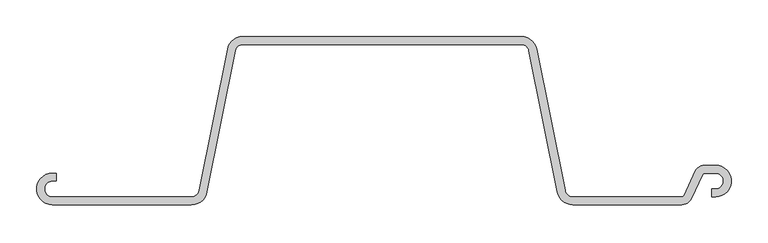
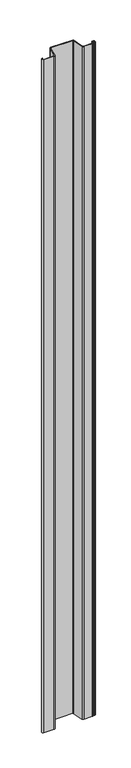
"""IFC4 building model written with IfcOpenShell, lengths in millimetres: proxy geometry, 鋼矢板10H型 : 鋼矢板10H型."""

from ifc_helpers import new_model, si_unit, point, frame, frame_2d, origin, place, context, project, spatial, polyline, circle_curve, trimmed, segment, composite_curve, outline, extrude, source, transform, mapped, element, save


def generic_models_896a7e0f(model_context):
    return source(origin(), model_context, "Body", "SweptSolid", [
        extrude(outline(composite_curve([segment(trimmed(circle_curve(frame_2d((409.1972607, -101.1142857)), 13.8857143), [point((421.7819917, -106.9826421))], [point((409.1972607, -115.0))], False, "CARTESIAN"), True, "CONTINUOUS"), segment(polyline([(409.1972607, -115.0), (260.2008232, -115.0)]), True, "CONTINUOUS"), segment(trimmed(circle_curve(frame_2d((260.2008232, -93.4)), 21.6), [point((260.2008232, -115.0))], [point((239.0202806, -97.6361085))], False, "CARTESIAN"), True, "CONTINUOUS"), segment(polyline([(239.0202806, -97.6361085), (200.3894481, 95.5180543)]), True, "CONTINUOUS"), segment(trimmed(circle_curve(frame_2d((189.7991768, 93.4)), 10.8), [point((200.3894481, 95.5180543))], [point((189.7991768, 104.2))], True, "CARTESIAN"), True, "CONTINUOUS"), segment(polyline([(189.7991768, 104.2), (-189.7991768, 104.2)]), True, "CONTINUOUS"), segment(trimmed(circle_curve(frame_2d((-189.7991768, 93.4)), 10.8), [point((-189.7991768, 104.2))], [point((-200.3894481, 95.5180543))], True, "CARTESIAN"), True, "CONTINUOUS"), segment(polyline([(-200.3894481, 95.5180543), (-239.0202806, -97.6361085)]), True, "CONTINUOUS"), segment(trimmed(circle_curve(frame_2d((-260.2008232, -93.4)), 21.6), [point((-239.0202806, -97.6361085))], [point((-260.2008232, -115.0))], False, "CARTESIAN"), True, "CONTINUOUS"), segment(polyline([(-260.2008232, -115.0), (-450.0, -115.0)]), True, "CONTINUOUS"), segment(trimmed(circle_curve(frame_2d((-450.0, -93.4)), 21.6), [point((-450.0, -115.0))], [point((-450.0, -71.8))], False, "CARTESIAN"), True, "CONTINUOUS"), segment(polyline([(-450.0, -71.8), (-445.0, -71.8), (-445.0, -82.6), (-450.0, -82.6)]), True, "CONTINUOUS"), segment(trimmed(circle_curve(frame_2d((-450.0, -93.4)), 10.8), [point((-450.0, -82.6))], [point((-450.0, -104.2))], True, "CARTESIAN"), True, "CONTINUOUS"), segment(polyline([(-450.0, -104.2), (-260.2008232, -104.2)]), True, "CONTINUOUS"), segment(trimmed(circle_curve(frame_2d((-260.2008232, -93.4)), 10.8), [point((-260.2008232, -104.2))], [point((-249.6105519, -95.5180543))], True, "CARTESIAN"), True, "CONTINUOUS"), segment(polyline([(-249.6105519, -95.5180543), (-210.9797194, 97.6361085)]), True, "CONTINUOUS"), segment(trimmed(circle_curve(frame_2d((-189.7991768, 93.4)), 21.6), [point((-210.9797194, 97.6361085))], [point((-189.7991768, 115.0))], False, "CARTESIAN"), True, "CONTINUOUS"), segment(polyline([(-189.7991768, 115.0), (189.7991768, 115.0)]), True, "CONTINUOUS"), segment(trimmed(circle_curve(frame_2d((189.7991768, 93.4)), 21.6), [point((189.7991768, 115.0))], [point((210.9797194, 97.6361085))], False, "CARTESIAN"), True, "CONTINUOUS"), segment(polyline([(210.9797194, 97.6361085), (249.6105519, -95.5180543)]), True, "CONTINUOUS"), segment(trimmed(circle_curve(frame_2d((260.2008232, -93.4)), 10.8), [point((249.6105519, -95.5180543))], [point((260.2008232, -104.2))], True, "CARTESIAN"), True, "CONTINUOUS"), segment(polyline([(260.2008232, -104.2), (409.1972607, -104.2)]), True, "CONTINUOUS"), segment(trimmed(circle_curve(frame_2d((409.1972607, -101.1142857)), 3.0857143), [point((409.1972607, -104.2))], [point((411.9938676, -102.4183649))], True, "CARTESIAN"), True, "CONTINUOUS"), segment(polyline([(411.9938676, -102.4183649), (427.569013, -69.0173579)]), True, "CONTINUOUS"), segment(trimmed(circle_curve(frame_2d((440.153744, -74.8857143)), 13.8857143), [point((427.569013, -69.0173579))], [point((440.153744, -61.0))], False, "CARTESIAN"), True, "CONTINUOUS"), segment(polyline([(440.153744, -61.0), (455.0, -61.0)]), True, "CONTINUOUS"), segment(trimmed(circle_curve(frame_2d((455.0, -82.6)), 21.6), [point((455.0, -61.0))], [point((455.0, -104.2))], False, "CARTESIAN"), True, "CONTINUOUS"), segment(polyline([(455.0, -104.2), (450.0, -104.2), (450.0, -93.4), (455.0, -93.4)]), True, "CONTINUOUS"), segment(trimmed(circle_curve(frame_2d((455.0, -82.6)), 10.8), [point((455.0, -93.4))], [point((455.0, -71.8))], True, "CARTESIAN"), True, "CONTINUOUS"), segment(polyline([(455.0, -71.8), (440.153744, -71.8)]), True, "CONTINUOUS"), segment(trimmed(circle_curve(frame_2d((440.153744, -74.8857143)), 3.0857143), [point((440.153744, -71.8))], [point((437.3571371, -73.5816351))], True, "CARTESIAN"), True, "CONTINUOUS"), segment(polyline([(437.3571371, -73.5816351), (421.7819917, -106.9826421)]), True, "CONTINUOUS")], self_intersect=False)), frame((0.0, 0.0, -12500.0), z_axis=(0.0, 0.0, 1.0), x_axis=(1.0, 0.0, 0.0)), (0.0, 0.0, 1.0), 12500.0),
    ])


if __name__ == "__main__":
    model = new_model("IFC4")
    model_context = context("Model", 3, world=origin())
    ifc_project = project(units=[si_unit("LENGTHUNIT", "METRE", prefix="MILLI")], contexts=[model_context])
    site = spatial("IfcSite", under=ifc_project)
    building = spatial("IfcBuilding", under=site)
    placement = place(None, origin())
    generic_models_shape = generic_models_896a7e0f(model_context)
    element("IfcBuildingElementProxy", 1, Name="鋼矢板10H型 : 鋼矢板10H型", ObjectType="鋼矢板10H型 : 鋼矢板10H型", at=placement, inside=building, context=model_context, shape_type="MappedRepresentation", body=[
        mapped(generic_models_shape, transform((0.0, 0.0, 0.0), x_axis=(1.0, 0.0, 0.0), y_axis=(0.0, 1.0, 0.0), z_axis=(0.0, 0.0, 1.0))),
    ])
    save(model, "model.ifc")
